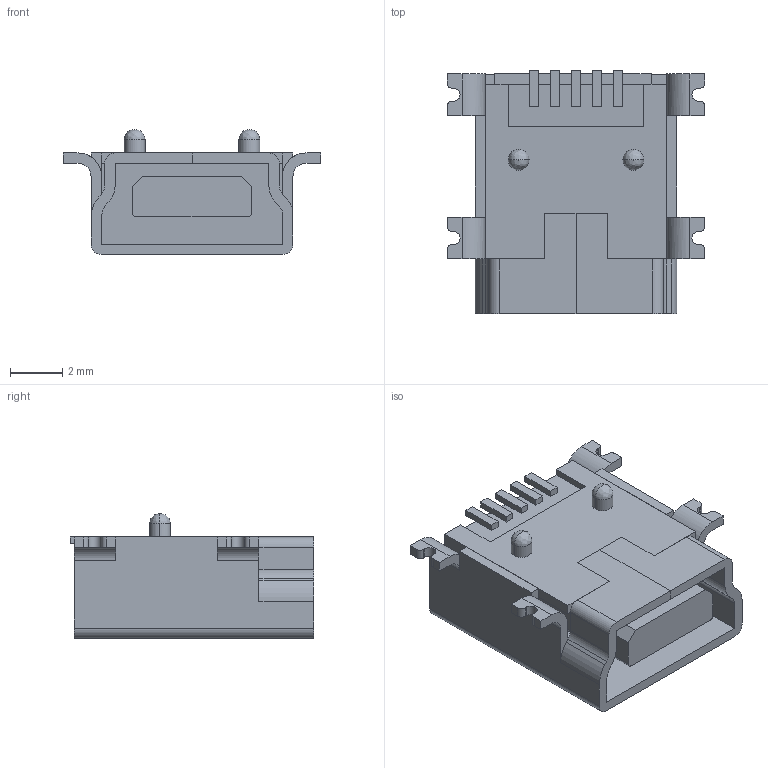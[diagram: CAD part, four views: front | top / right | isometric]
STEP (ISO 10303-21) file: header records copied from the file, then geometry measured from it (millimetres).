
FILE_DESCRIPTION((''),'2;1');
FILE_NAME('MINIUSM-2UBMB01-SINGATRON-A_PRT','2008-06-30T',('GRA'),(''),'PRO/ENGINEER BY PARAMETRIC TECHNOLOGY CORPORATION, 2006170','PRO/ENGINEER BY PARAMETRIC TECHNOLOGY CORPORATION, 2006170','');
FILE_SCHEMA(('CONFIG_CONTROL_DESIGN'));
Length unit declared in the file: millimetre
Products named in the file (1): MINIUSM-2UBMB01-SINGATRON-A_PRT
Bounding box: 9.9 x 9.34 x 4.8 mm (x, y, z)
Volume: 100.9 mm3; surface area: 616.5 mm2
Topology: 6 solids, 7 shells, 485 faces, 1332 edges, 882 vertices
Faces by surface type: plane 441, cylinder 40, bspline 4
Entity records: 15272 total; most frequent: CARTESIAN_POINT 2810, ORIENTED_EDGE 2664, DIRECTION 2392, EDGE_CURVE 1332, VECTOR 1236, LINE 1236, VERTEX_POINT 884, AXIS2_PLACEMENT_3D 578
